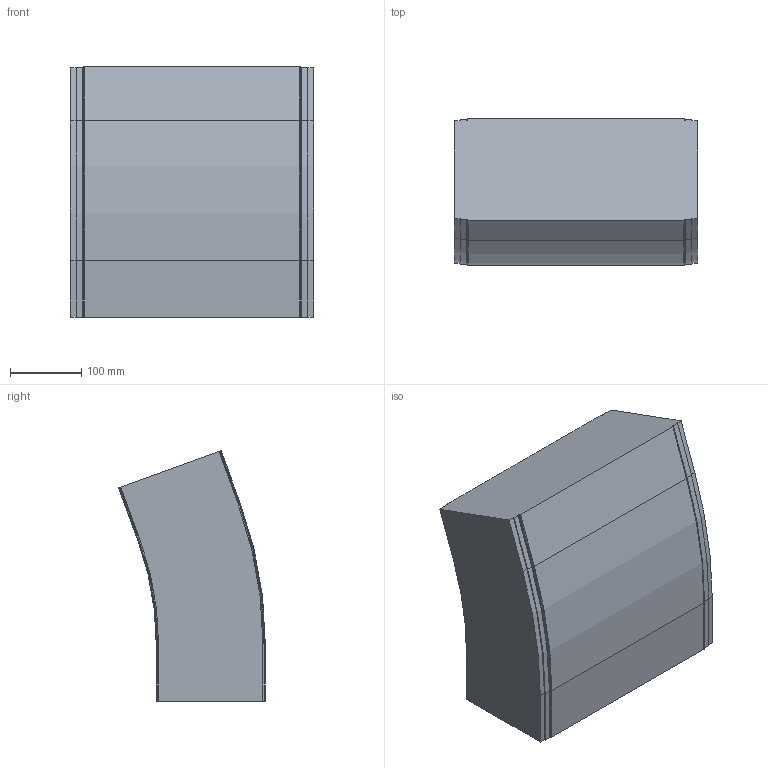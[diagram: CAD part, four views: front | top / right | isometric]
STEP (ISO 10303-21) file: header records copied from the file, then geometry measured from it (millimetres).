
FILE_DESCRIPTION (( 'STEP AP214' ), '1' );
FILE_NAME ('F2 1200 CV500 x.step', '2017-04-05T06:47:22', ( '' ), ( '' ), 'SwSTEP 2.0', 'SolidWorks 2015', '' );
FILE_SCHEMA (( 'AUTOMOTIVE_DESIGN' ));
Length unit declared in the file: millimetre
Products named in the file (1): F2 1200 CV500 x
Bounding box: 342 x 206.29 x 352.42 mm (x, y, z)
Volume: 17487230.8 mm3; surface area: 437435.2 mm2
Topology: 1 solids, 1 shells, 70 faces, 196 edges, 128 vertices
Faces by surface type: plane 44, cylinder 22, torus 4
Entity records: 3048 total; most frequent: CARTESIAN_POINT 395, ORIENTED_EDGE 392, DIRECTION 386, EDGE_CURVE 196, LINE 148, VECTOR 148, VERTEX_POINT 128, AXIS2_PLACEMENT_3D 119
